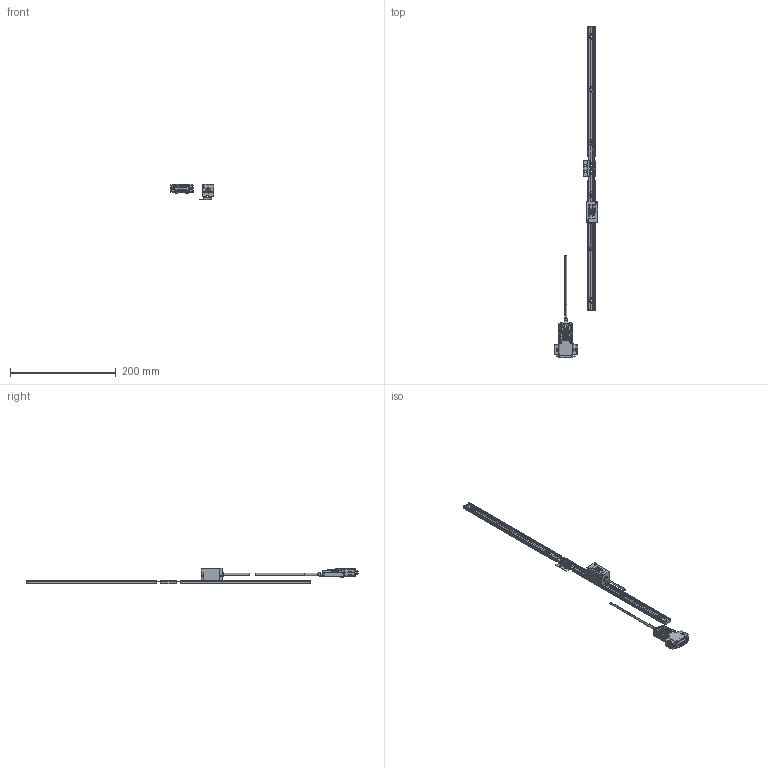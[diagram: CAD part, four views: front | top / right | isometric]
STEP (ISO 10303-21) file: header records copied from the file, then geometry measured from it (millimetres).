
FILE_DESCRIPTION(('Creo Elements/Direct Modeling STEP Export'),'2;1');
FILE_NAME('ST1300-500F_G.stp','2022-08-16T10:04:44',(''),(''),'Creo Elements/Direct Modeling STEP processor for AP214 (Solid Model)','Creo Elements/Direct Modeling 18.1I 13-Aug-2016 (C) Parametric Technology GmbH','');
FILE_SCHEMA(('AUTOMOTIVE_DESIGN { 1 0 10303 214 1 1 1 1 }'));
Length unit declared in the file: millimetre
Products named in the file (4): Detector_Head; Scale_500; Connector; ST1300-500F_G
Assembly tree (3 placements, depth 2):
  ST1300-500F_G
    Connector
    Scale_500
    Detector_Head
Bounding box: 83 x 629.1 x 30.1 mm (x, y, z)
Volume: 63578.2 mm3; surface area: 43087.6 mm2
Topology: 2 solids, 6 shells, 3385 faces, 9358 edges, 6117 vertices
Faces by surface type: plane 1616, cylinder 1515, extrusion 114, cone 87, torus 26, bspline 23, revolution 4
Entity records: 113357 total; most frequent: CARTESIAN_POINT 25806, ORIENTED_EDGE 18700, DIRECTION 17896, EDGE_CURVE 9346, VERTEX_POINT 6117, AXIS2_PLACEMENT_3D 6063, VECTOR 5764, LINE 5676
